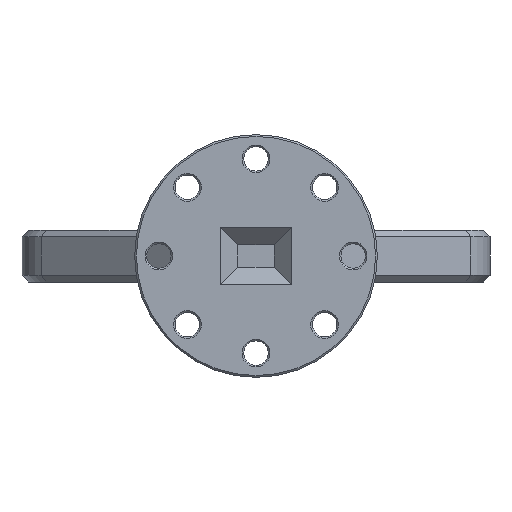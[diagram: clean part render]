
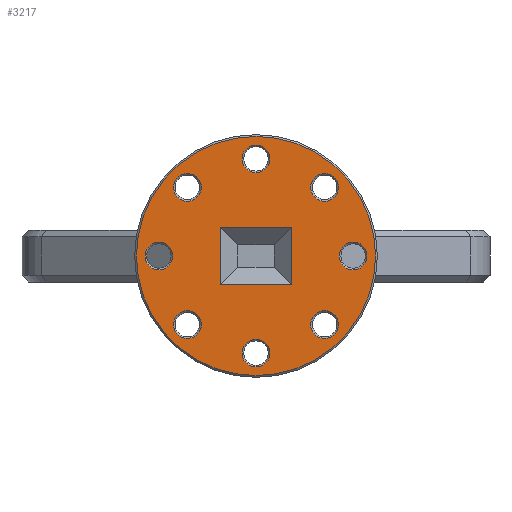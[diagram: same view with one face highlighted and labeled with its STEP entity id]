
A CAD part, front view. The second image highlights one B-rep face of the part: STEP entity #3217.
In plain terms, the highlighted planar face has unit normal (0, -1, 0).
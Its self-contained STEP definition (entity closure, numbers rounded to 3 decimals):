
#23=FACE_BOUND('',#377,.T.);
#24=FACE_BOUND('',#378,.T.);
#25=FACE_BOUND('',#379,.T.);
#26=FACE_BOUND('',#380,.T.);
#27=FACE_BOUND('',#381,.T.);
#28=FACE_BOUND('',#382,.T.);
#29=FACE_BOUND('',#383,.T.);
#30=FACE_BOUND('',#384,.T.);
#31=FACE_BOUND('',#385,.T.);
#33=PLANE('',#3455);
#192=FACE_OUTER_BOUND('',#376,.T.);
#376=EDGE_LOOP('',(#2195));
#377=EDGE_LOOP('',(#2196));
#378=EDGE_LOOP('',(#2197));
#379=EDGE_LOOP('',(#2198));
#380=EDGE_LOOP('',(#2199));
#381=EDGE_LOOP('',(#2200,#2201,#2202,#2203));
#382=EDGE_LOOP('',(#2204));
#383=EDGE_LOOP('',(#2205));
#384=EDGE_LOOP('',(#2206));
#385=EDGE_LOOP('',(#2207));
#567=LINE('',#4772,#902);
#568=LINE('',#4774,#903);
#569=LINE('',#4776,#904);
#570=LINE('',#4777,#905);
#902=VECTOR('',#3860,10.);
#903=VECTOR('',#3861,10.);
#904=VECTOR('',#3862,10.);
#905=VECTOR('',#3863,10.);
#1206=CIRCLE('',#3391,34.5);
#1220=CIRCLE('',#3411,4.);
#1222=CIRCLE('',#3415,4.);
#1224=CIRCLE('',#3419,4.);
#1226=CIRCLE('',#3423,4.);
#1240=CIRCLE('',#3444,4.);
#1242=CIRCLE('',#3448,4.);
#1244=CIRCLE('',#3452,4.);
#1246=CIRCLE('',#3456,4.);
#1328=VERTEX_POINT('',#4625);
#1342=VERTEX_POINT('',#4665);
#1344=VERTEX_POINT('',#4673);
#1346=VERTEX_POINT('',#4681);
#1348=VERTEX_POINT('',#4689);
#1370=VERTEX_POINT('',#4746);
#1372=VERTEX_POINT('',#4754);
#1374=VERTEX_POINT('',#4762);
#1376=VERTEX_POINT('',#4770);
#1377=VERTEX_POINT('',#4771);
#1378=VERTEX_POINT('',#4773);
#1379=VERTEX_POINT('',#4775);
#1380=VERTEX_POINT('',#4778);
#1606=EDGE_CURVE('',#1328,#1328,#1206,.T.);
#1626=EDGE_CURVE('',#1342,#1342,#1220,.T.);
#1630=EDGE_CURVE('',#1344,#1344,#1222,.T.);
#1634=EDGE_CURVE('',#1346,#1346,#1224,.T.);
#1638=EDGE_CURVE('',#1348,#1348,#1226,.T.);
#1666=EDGE_CURVE('',#1370,#1370,#1240,.T.);
#1670=EDGE_CURVE('',#1372,#1372,#1242,.T.);
#1674=EDGE_CURVE('',#1374,#1374,#1244,.T.);
#1678=EDGE_CURVE('',#1376,#1377,#567,.T.);
#1679=EDGE_CURVE('',#1377,#1378,#568,.T.);
#1680=EDGE_CURVE('',#1378,#1379,#569,.T.);
#1681=EDGE_CURVE('',#1379,#1376,#570,.T.);
#1682=EDGE_CURVE('',#1380,#1380,#1246,.T.);
#2195=ORIENTED_EDGE('',*,*,#1606,.F.);
#2196=ORIENTED_EDGE('',*,*,#1674,.F.);
#2197=ORIENTED_EDGE('',*,*,#1666,.F.);
#2198=ORIENTED_EDGE('',*,*,#1634,.F.);
#2199=ORIENTED_EDGE('',*,*,#1626,.F.);
#2200=ORIENTED_EDGE('',*,*,#1678,.T.);
#2201=ORIENTED_EDGE('',*,*,#1679,.T.);
#2202=ORIENTED_EDGE('',*,*,#1680,.T.);
#2203=ORIENTED_EDGE('',*,*,#1681,.T.);
#2204=ORIENTED_EDGE('',*,*,#1630,.F.);
#2205=ORIENTED_EDGE('',*,*,#1638,.F.);
#2206=ORIENTED_EDGE('',*,*,#1670,.F.);
#2207=ORIENTED_EDGE('',*,*,#1682,.F.);
#3217=ADVANCED_FACE('',(#192,#23,#24,#25,#26,#27,#28,#29,#30,#31),#33,.T.);
#3391=AXIS2_PLACEMENT_3D('',#4626,#3698,#3699);
#3411=AXIS2_PLACEMENT_3D('',#4666,#3744,#3745);
#3415=AXIS2_PLACEMENT_3D('',#4674,#3754,#3755);
#3419=AXIS2_PLACEMENT_3D('',#4682,#3764,#3765);
#3423=AXIS2_PLACEMENT_3D('',#4690,#3774,#3775);
#3444=AXIS2_PLACEMENT_3D('',#4747,#3830,#3831);
#3448=AXIS2_PLACEMENT_3D('',#4755,#3840,#3841);
#3452=AXIS2_PLACEMENT_3D('',#4763,#3850,#3851);
#3455=AXIS2_PLACEMENT_3D('',#4769,#3858,#3859);
#3456=AXIS2_PLACEMENT_3D('',#4779,#3864,#3865);
#3698=DIRECTION('center_axis',(0.,1.,0.));
#3699=DIRECTION('ref_axis',(-1.,0.,0.));
#3744=DIRECTION('center_axis',(0.,-1.,0.));
#3745=DIRECTION('ref_axis',(-1.,0.,0.));
#3754=DIRECTION('center_axis',(0.,-1.,0.));
#3755=DIRECTION('ref_axis',(0.,0.,
-1.));
#3764=DIRECTION('center_axis',(0.,-1.,0.));
#3765=DIRECTION('ref_axis',(1.,0.,0.));
#3774=DIRECTION('center_axis',(0.,-1.,0.));
#3775=DIRECTION('ref_axis',(0.,0.,
1.));
#3830=DIRECTION('center_axis',(0.,-1.,0.));
#3831=DIRECTION('ref_axis',(-1.,0.,0.));
#3840=DIRECTION('center_axis',(0.,-1.,0.));
#3841=DIRECTION('ref_axis',(0.,0.,
1.));
#3850=DIRECTION('center_axis',(0.,-1.,0.));
#3851=DIRECTION('ref_axis',(1.,0.,0.));
#3858=DIRECTION('center_axis',(0.,-1.,0.));
#3859=DIRECTION('ref_axis',(-1.,0.,0.));
#3860=DIRECTION('',(0.,0.,1.));
#3861=DIRECTION('',(1.,0.,0.));
#3862=DIRECTION('',(0.,0.,-1.));
#3863=DIRECTION('',(-1.,0.,0.));
#3864=DIRECTION('center_axis',(0.,-1.,0.));
#3865=DIRECTION('ref_axis',(0.,0.,
-1.));
#4625=CARTESIAN_POINT('',(34.5,-5.,0.));
#4626=CARTESIAN_POINT('Origin',(0.,-5.,0.));
#4665=CARTESIAN_POINT('',(23.799,-5.,19.799));
#4666=CARTESIAN_POINT('Origin',(19.799,-5.,19.799));
#4673=CARTESIAN_POINT('',(-19.799,-5.,23.799));
#4674=CARTESIAN_POINT('Origin',(-19.799,-5.,19.799));
#4681=CARTESIAN_POINT('',(-23.799,-5.,-19.799));
#4682=CARTESIAN_POINT('Origin',(-19.799,-5.,-19.799));
#4689=CARTESIAN_POINT('',(19.799,-5.,-23.799));
#4690=CARTESIAN_POINT('Origin',(19.799,-5.,-19.799));
#4746=CARTESIAN_POINT('',(4.,-5.,28.));
#4747=CARTESIAN_POINT('Origin',(0.,-5.,28.));
#4754=CARTESIAN_POINT('',(28.,-5.,-4.));
#4755=CARTESIAN_POINT('Origin',(28.,-5.,0.));
#4762=CARTESIAN_POINT('',(-4.,-5.,-28.));
#4763=CARTESIAN_POINT('Origin',(0.,-5.,-28.));
#4769=CARTESIAN_POINT('Origin',(0.,-5.,0.));
#4770=CARTESIAN_POINT('',(-10.25,-5.,-8.25));
#4771=CARTESIAN_POINT('',(-10.25,-5.,8.25));
#4772=CARTESIAN_POINT('',(-10.25,-5.,-4.125));
#4773=CARTESIAN_POINT('',(10.25,-5.,8.25));
#4774=CARTESIAN_POINT('',(-5.125,-5.,8.25));
#4775=CARTESIAN_POINT('',(10.25,-5.,-8.25));
#4776=CARTESIAN_POINT('',(10.25,-5.,4.125));
#4777=CARTESIAN_POINT('',(5.125,-5.,-8.25));
#4778=CARTESIAN_POINT('',(-28.,-5.,4.));
#4779=CARTESIAN_POINT('Origin',(-28.,-5.,0.));
